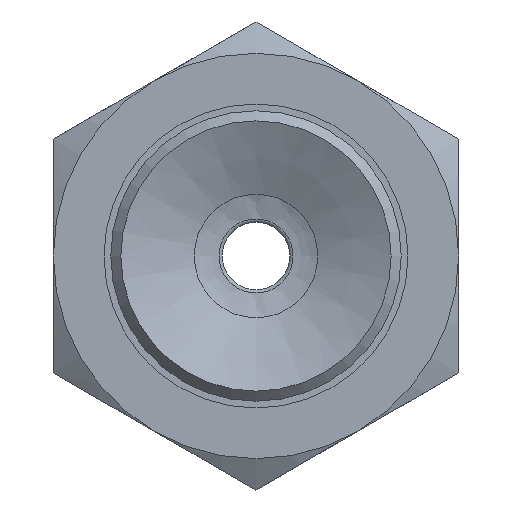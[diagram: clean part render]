
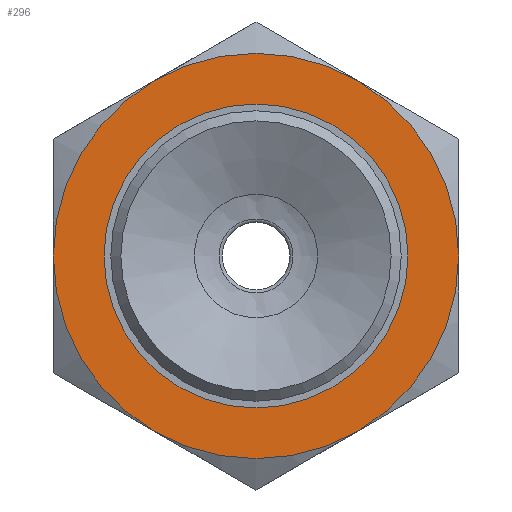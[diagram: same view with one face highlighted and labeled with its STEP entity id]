
A CAD part, front view. The second image highlights one B-rep face of the part: STEP entity #296.
In plain terms, the highlighted planar face has unit normal (0, -1, 0) as drawn and (-1, 0, 0) by its records, which use the part's own axes.
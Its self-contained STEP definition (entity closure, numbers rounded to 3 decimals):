
#296=ADVANCED_FACE('',(#378,#379),#380,.F.);
#378=FACE_BOUND('',#550,.T.);
#379=FACE_OUTER_BOUND('',#551,.T.);
#380=PLANE('',#552);
#550=EDGE_LOOP('',(#823));
#551=EDGE_LOOP('',(#824,#825,#826,#827,#828,#829));
#552=AXIS2_PLACEMENT_3D('',#830,#831,#832);
#823=ORIENTED_EDGE('',*,*,#1119,.T.);
#824=ORIENTED_EDGE('',*,*,#1120,.F.);
#825=ORIENTED_EDGE('',*,*,#1121,.F.);
#826=ORIENTED_EDGE('',*,*,#1092,.F.);
#827=ORIENTED_EDGE('',*,*,#1089,.F.);
#828=ORIENTED_EDGE('',*,*,#1088,.F.);
#829=ORIENTED_EDGE('',*,*,#1117,.F.);
#830=CARTESIAN_POINT('',(0.,0.0,0.0));
#831=DIRECTION('',(1.0,0.0,0.0));
#832=DIRECTION('',(0.0,1.0,0.0));
#1088=EDGE_CURVE('',#1176,#1179,#1181,.T.);
#1089=EDGE_CURVE('',#1179,#1182,#1183,.T.);
#1092=EDGE_CURVE('',#1182,#1187,#1188,.T.);
#1117=EDGE_CURVE('',#1227,#1176,#1228,.T.);
#1119=EDGE_CURVE('',#1230,#1230,#1231,.T.);
#1120=EDGE_CURVE('',#1232,#1227,#1233,.T.);
#1121=EDGE_CURVE('',#1187,#1232,#1234,.T.);
#1176=VERTEX_POINT('',#1352);
#1179=VERTEX_POINT('',#1375);
#1181=CIRCLE('',#1387,6.0);
#1182=VERTEX_POINT('',#1388);
#1183=CIRCLE('',#1389,6.0);
#1187=VERTEX_POINT('',#1413);
#1188=CIRCLE('',#1414,6.0);
#1227=VERTEX_POINT('',#1586);
#1228=CIRCLE('',#1587,6.0);
#1230=VERTEX_POINT('',#1599);
#1231=CIRCLE('',#1600,4.5);
#1232=VERTEX_POINT('',#1601);
#1233=CIRCLE('',#1602,6.0);
#1234=CIRCLE('',#1603,6.0);
#1352=CARTESIAN_POINT('',(0.,0.0,6.0));
#1375=CARTESIAN_POINT('',(0.,-5.196,3.0));
#1387=AXIS2_PLACEMENT_3D('',#1723,#1724,#1725);
#1388=CARTESIAN_POINT('',(0.,-5.196,-3.0));
#1389=AXIS2_PLACEMENT_3D('',#1726,#1727,#1728);
#1413=CARTESIAN_POINT('',(0.,0.0,-6.0));
#1414=AXIS2_PLACEMENT_3D('',#1729,#1730,#1731);
#1586=CARTESIAN_POINT('',(0.,5.196,3.0));
#1587=AXIS2_PLACEMENT_3D('',#1759,#1760,#1761);
#1599=CARTESIAN_POINT('',(0.,0.0,-4.5));
#1600=AXIS2_PLACEMENT_3D('',#1762,#1763,#1764);
#1601=CARTESIAN_POINT('',(0.,5.196,-3.0));
#1602=AXIS2_PLACEMENT_3D('',#1765,#1766,#1767);
#1603=AXIS2_PLACEMENT_3D('',#1768,#1769,#1770);
#1723=CARTESIAN_POINT('',(0.,0.0,0.0));
#1724=DIRECTION('',(1.0,0.0,0.0));
#1725=DIRECTION('',(0.0,0.0,-1.0));
#1726=CARTESIAN_POINT('',(0.,0.0,0.0));
#1727=DIRECTION('',(1.0,0.0,0.0));
#1728=DIRECTION('',(0.0,0.0,-1.0));
#1729=CARTESIAN_POINT('',(0.,0.0,0.0));
#1730=DIRECTION('',(1.0,0.0,0.0));
#1731=DIRECTION('',(0.0,0.0,-1.0));
#1759=CARTESIAN_POINT('',(0.,0.0,0.0));
#1760=DIRECTION('',(1.0,0.0,0.0));
#1761=DIRECTION('',(0.0,0.0,-1.0));
#1762=CARTESIAN_POINT('',(0.,0.0,0.0));
#1763=DIRECTION('',(1.0,0.0,0.0));
#1764=DIRECTION('',(0.0,0.0,-1.0));
#1765=CARTESIAN_POINT('',(0.,0.0,0.0));
#1766=DIRECTION('',(1.0,0.0,0.0));
#1767=DIRECTION('',(0.0,0.0,-1.0));
#1768=CARTESIAN_POINT('',(0.,0.0,0.0));
#1769=DIRECTION('',(1.0,0.0,0.0));
#1770=DIRECTION('',(0.0,0.0,-1.0));
